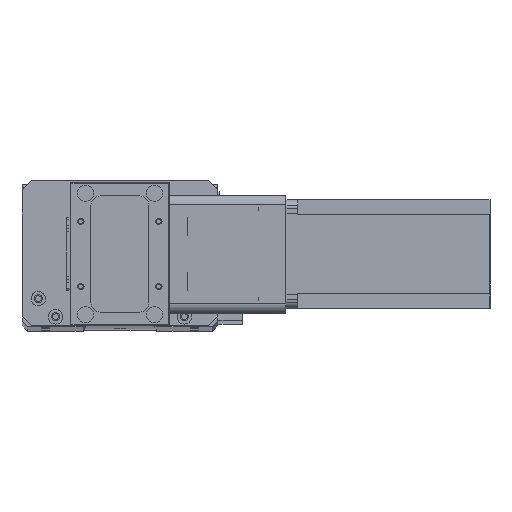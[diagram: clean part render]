
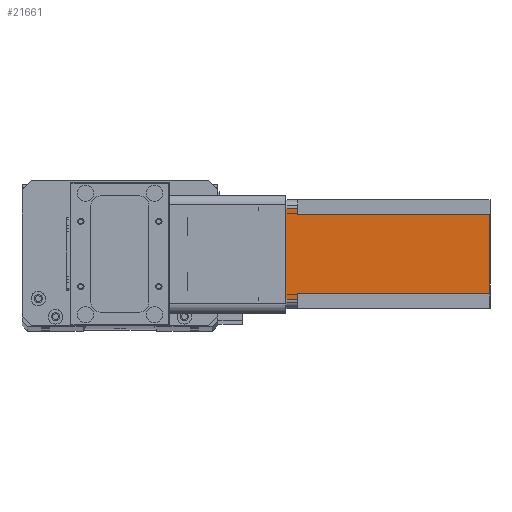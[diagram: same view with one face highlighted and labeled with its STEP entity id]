
A CAD part, top view. The second image highlights one B-rep face of the part: STEP entity #21661.
In plain terms, the highlighted planar face has unit normal (0, 0, 1) as drawn and (0, 1, 0) by its records, which use the part's own axes.
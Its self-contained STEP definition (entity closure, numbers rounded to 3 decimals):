
#269 = LINE ( 'NONE', #12469, #16269 ) ;
#312 = VECTOR ( 'NONE', #1919, 1000. ) ;
#1056 = VERTEX_POINT ( 'NONE', #6755 ) ;
#1063 = CARTESIAN_POINT ( 'NONE',  ( 5., 60., -112.5 ) ) ;
#1316 = VERTEX_POINT ( 'NONE', #16530 ) ;
#1370 = ORIENTED_EDGE ( 'NONE', *, *, #28015, .T. ) ;
#1385 = VERTEX_POINT ( 'NONE', #10061 ) ;
#1503 = DIRECTION ( 'NONE',  ( 0., 0., 1. ) ) ;
#1733 = VERTEX_POINT ( 'NONE', #27094 ) ;
#1818 = EDGE_CURVE ( 'NONE', #1385, #1733, #20771, .T. ) ;
#1919 = DIRECTION ( 'NONE',  ( 0., 0., 1. ) ) ;
#2891 = ORIENTED_EDGE ( 'NONE', *, *, #19709, .T. ) ;
#3250 = DIRECTION ( 'NONE',  ( 0., 0., 1. ) ) ;
#3310 = CARTESIAN_POINT ( 'NONE',  ( 8., 60., -112.5 ) ) ;
#3818 = ORIENTED_EDGE ( 'NONE', *, *, #10594, .F. ) ;
#3824 = DIRECTION ( 'NONE',  ( 1., 0., 0. ) ) ;
#4062 = CARTESIAN_POINT ( 'NONE',  ( 55., 60., -6.5 ) ) ;
#5684 = EDGE_CURVE ( 'NONE', #26937, #1056, #6103, .T. ) ;
#6103 = LINE ( 'NONE', #10596, #312 ) ;
#6639 = EDGE_CURVE ( 'NONE', #17312, #1316, #24696, .T. ) ;
#6755 = CARTESIAN_POINT ( 'NONE',  ( 52., 60., -6.5 ) ) ;
#10061 = CARTESIAN_POINT ( 'NONE',  ( 8., 60., -6.5 ) ) ;
#10331 = ORIENTED_EDGE ( 'NONE', *, *, #12593, .T. ) ;
#10436 = EDGE_LOOP ( 'NONE', ( #20712, #2891, #25664, #21092, #1370, #3818, #16431, #10331 ) ) ;
#10594 = EDGE_CURVE ( 'NONE', #1385, #23549, #17808, .T. ) ;
#10596 = CARTESIAN_POINT ( 'NONE',  ( 52., 60., -112.5 ) ) ;
#12025 = VECTOR ( 'NONE', #15193, 1000. ) ;
#12374 = PLANE ( 'NONE',  #16361 ) ;
#12412 = DIRECTION ( 'NONE',  ( -1., 0., 0. ) ) ;
#12469 = CARTESIAN_POINT ( 'NONE',  ( 52., 60., -6.5 ) ) ;
#12593 = EDGE_CURVE ( 'NONE', #1733, #1316, #27158, .T. ) ;
#12813 = DIRECTION ( 'NONE',  ( -1., 0., 0. ) ) ;
#13869 = VECTOR ( 'NONE', #12813, 1000. ) ;
#14486 = CARTESIAN_POINT ( 'NONE',  ( 0., 60., -112.5 ) ) ;
#14577 = DIRECTION ( 'NONE',  ( 0., 1., 0. ) ) ;
#14987 = VECTOR ( 'NONE', #3250, 1000. ) ;
#15026 = VECTOR ( 'NONE', #12412, 1000. ) ;
#15193 = DIRECTION ( 'NONE',  ( 0., 0., -1. ) ) ;
#16269 = VECTOR ( 'NONE', #3824, 1000. ) ;
#16361 = AXIS2_PLACEMENT_3D ( 'NONE', #14486, #14577, #1503 ) ;
#16431 = ORIENTED_EDGE ( 'NONE', *, *, #1818, .T. ) ;
#16530 = CARTESIAN_POINT ( 'NONE',  ( 5., 60., 0. ) ) ;
#17312 = VERTEX_POINT ( 'NONE', #24469 ) ;
#17631 = FACE_OUTER_BOUND ( 'NONE', #10436, .T. ) ;
#17808 = LINE ( 'NONE', #21528, #12025 ) ;
#19709 = EDGE_CURVE ( 'NONE', #17312, #22652, #21445, .T. ) ;
#20455 = CARTESIAN_POINT ( 'NONE',  ( 0., 60., -112.5 ) ) ;
#20562 = VECTOR ( 'NONE', #26880, 1000. ) ;
#20604 = CARTESIAN_POINT ( 'NONE',  ( 52., 60., -112.5 ) ) ;
#20712 = ORIENTED_EDGE ( 'NONE', *, *, #6639, .F. ) ;
#20770 = VECTOR ( 'NONE', #26753, 1000. ) ;
#20771 = LINE ( 'NONE', #21033, #15026 ) ;
#21033 = CARTESIAN_POINT ( 'NONE',  ( 8., 60., -6.5 ) ) ;
#21092 = ORIENTED_EDGE ( 'NONE', *, *, #5684, .F. ) ;
#21429 = CARTESIAN_POINT ( 'NONE',  ( 0., 60., 0. ) ) ;
#21445 = LINE ( 'NONE', #24578, #20770 ) ;
#21528 = CARTESIAN_POINT ( 'NONE',  ( 8., 60., -112.5 ) ) ;
#21661 = ADVANCED_FACE ( 'NONE', ( #17631 ), #12374, .T. ) ;
#21678 = EDGE_CURVE ( 'NONE', #1056, #22652, #269, .T. ) ;
#22652 = VERTEX_POINT ( 'NONE', #4062 ) ;
#23549 = VERTEX_POINT ( 'NONE', #3310 ) ;
#24469 = CARTESIAN_POINT ( 'NONE',  ( 55., 60., 0. ) ) ;
#24578 = CARTESIAN_POINT ( 'NONE',  ( 55., 60., -112.5 ) ) ;
#24696 = LINE ( 'NONE', #21429, #13869 ) ;
#25664 = ORIENTED_EDGE ( 'NONE', *, *, #21678, .F. ) ;
#26304 = LINE ( 'NONE', #20455, #20562 ) ;
#26753 = DIRECTION ( 'NONE',  ( 0., 0., -1. ) ) ;
#26880 = DIRECTION ( 'NONE',  ( -1., 0., 0. ) ) ;
#26937 = VERTEX_POINT ( 'NONE', #20604 ) ;
#27094 = CARTESIAN_POINT ( 'NONE',  ( 5., 60., -6.5 ) ) ;
#27158 = LINE ( 'NONE', #1063, #14987 ) ;
#28015 = EDGE_CURVE ( 'NONE', #26937, #23549, #26304, .T. ) ;
